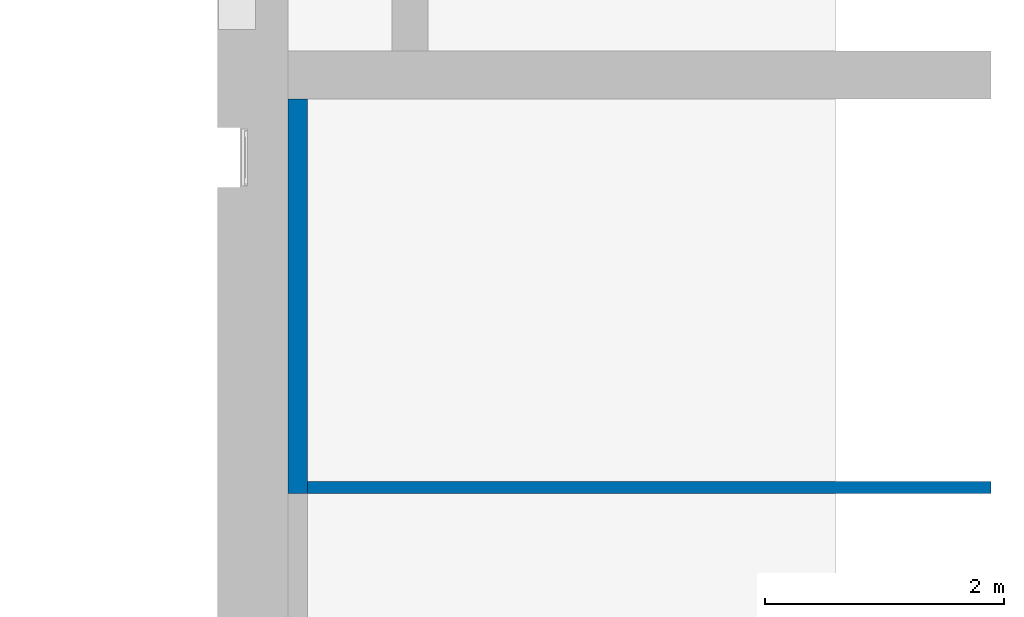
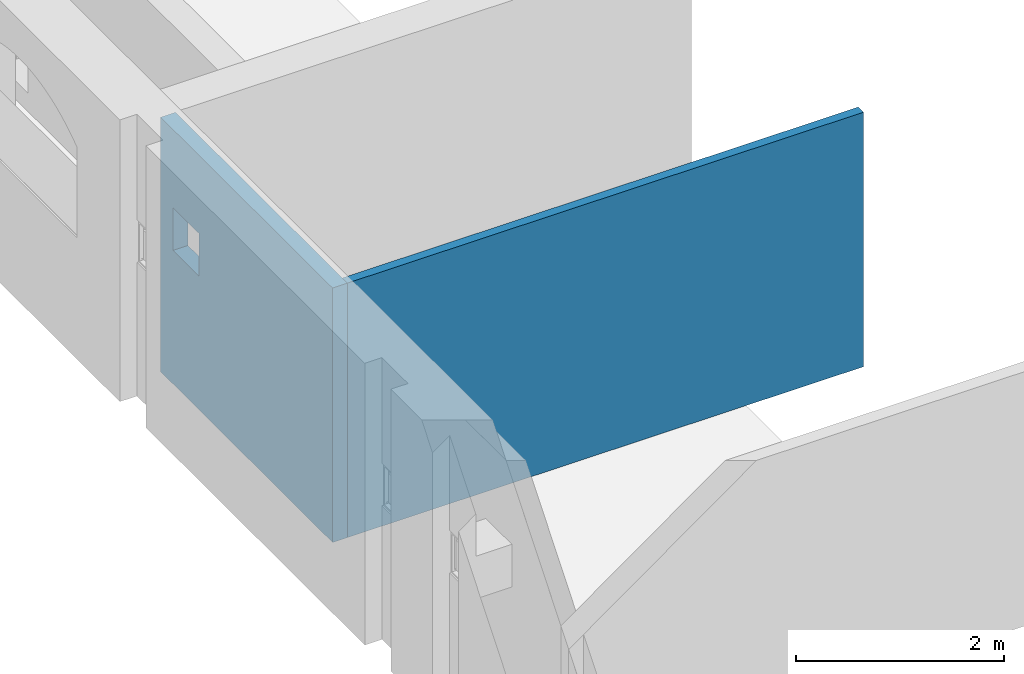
# One storey, part 5 of 11: 2 walls, 15 openings.
"""IFC2X3 building model written with IfcOpenShell, lengths in millimetres."""

from ifc_helpers import new_model, entity, si_unit, converted_unit, derived_unit, direction, frame, frame_2d, origin, origin_2d_with_axis, place, context, subcontext, project, spatial, polyline, circle_curve, parameter, trimmed, segment, composite_curve, rectangle, outline, extrude, clip, bounded_halfspace, material, layer, layer_set, layer_usage, type_object, element, save


model = new_model("IFC2X3")

# Units and contexts
model_context = context("Model", 3, precision=0.01, world=origin(), true_north=direction((6.123031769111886e-17, 1.0)))
body_context = subcontext(model_context, "Body", "Model", "MODEL_VIEW")
ifc_project = project(units=[si_unit("LENGTHUNIT", "METRE", prefix="MILLI"), si_unit("AREAUNIT", "SQUARE_METRE"), si_unit("VOLUMEUNIT", "CUBIC_METRE"), converted_unit("PLANEANGLEUNIT", "DEGREE", entity("IfcPlaneAngleMeasure", 0.017453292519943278), si_unit("PLANEANGLEUNIT", "RADIAN"), dimensions=[0, 0, 0, 0, 0, 0, 0]), si_unit("MASSUNIT", "GRAM", prefix="KILO"), derived_unit("MASSDENSITYUNIT", [(si_unit("MASSUNIT", "GRAM", prefix="KILO"), 1), (si_unit("LENGTHUNIT", "METRE"), -3)]), derived_unit("IONCONCENTRATIONUNIT", [(si_unit("MASSUNIT", "GRAM", prefix="KILO"), 1), (si_unit("LENGTHUNIT", "METRE"), -3)]), derived_unit("MOMENTOFINERTIAUNIT", [(si_unit("LENGTHUNIT", "METRE"), 4)]), si_unit("TIMEUNIT", "SECOND"), si_unit("FREQUENCYUNIT", "HERTZ"), si_unit("THERMODYNAMICTEMPERATUREUNIT", "DEGREE_CELSIUS"), derived_unit("THERMALTRANSMITTANCEUNIT", [(si_unit("MASSUNIT", "GRAM", prefix="KILO"), 1), (si_unit("THERMODYNAMICTEMPERATUREUNIT", "KELVIN"), -1), (si_unit("TIMEUNIT", "SECOND"), -3)]), derived_unit("THERMALCONDUCTANCEUNIT", [(si_unit("MASSUNIT", "GRAM", prefix="KILO"), 1), (si_unit("THERMODYNAMICTEMPERATUREUNIT", "KELVIN"), -1), (si_unit("TIMEUNIT", "SECOND"), -3), (si_unit("LENGTHUNIT", "METRE"), 1)]), derived_unit("VOLUMETRICFLOWRATEUNIT", [(si_unit("LENGTHUNIT", "METRE", prefix="DECI"), 3), (si_unit("TIMEUNIT", "SECOND"), -1)]), derived_unit("MASSFLOWRATEUNIT", [(si_unit("MASSUNIT", "GRAM", prefix="KILO"), 1), (si_unit("TIMEUNIT", "SECOND"), -1)]), derived_unit("ROTATIONALFREQUENCYUNIT", [(si_unit("TIMEUNIT", "SECOND"), -1)]), si_unit("ELECTRICCURRENTUNIT", "AMPERE"), si_unit("ELECTRICVOLTAGEUNIT", "VOLT"), si_unit("POWERUNIT", "WATT"), si_unit("FORCEUNIT", "NEWTON", prefix="KILO"), si_unit("ILLUMINANCEUNIT", "LUX"), si_unit("LUMINOUSFLUXUNIT", "LUMEN"), si_unit("LUMINOUSINTENSITYUNIT", "CANDELA"), si_unit("ENERGYUNIT", "JOULE"), derived_unit("USERDEFINED", [(si_unit("MASSUNIT", "GRAM", prefix="KILO"), -1), (si_unit("LENGTHUNIT", "METRE"), -2), (si_unit("TIMEUNIT", "SECOND"), 3), (si_unit("LUMINOUSFLUXUNIT", "LUMEN"), 1)]), derived_unit("USERDEFINED", [(si_unit("MASSUNIT", "GRAM", prefix="KILO"), 1), (si_unit("TIMEUNIT", "SECOND"), -3), (si_unit("LENGTHUNIT", "METRE"), 3), (si_unit("ELECTRICCURRENTUNIT", "AMPERE"), -2)]), derived_unit("SOUNDPOWERUNIT", [(si_unit("MASSUNIT", "GRAM", prefix="KILO"), 1), (si_unit("TIMEUNIT", "SECOND"), -3), (si_unit("LENGTHUNIT", "METRE"), 2)]), derived_unit("SOUNDPRESSUREUNIT", [(si_unit("MASSUNIT", "GRAM", prefix="KILO"), 1), (si_unit("LENGTHUNIT", "METRE"), -1), (si_unit("TIMEUNIT", "SECOND"), -2)]), derived_unit("LINEARVELOCITYUNIT", [(si_unit("LENGTHUNIT", "METRE"), 1), (si_unit("TIMEUNIT", "SECOND"), -1)]), si_unit("PRESSUREUNIT", "PASCAL"), derived_unit("USERDEFINED", [(si_unit("MASSUNIT", "GRAM", prefix="KILO"), 1), (si_unit("LENGTHUNIT", "METRE"), -2), (si_unit("TIMEUNIT", "SECOND"), -2)]), derived_unit("LINEARFORCEUNIT", [(si_unit("MASSUNIT", "GRAM", prefix="KILO"), 1), (si_unit("TIMEUNIT", "SECOND"), -2)]), derived_unit("PLANARFORCEUNIT", [(si_unit("MASSUNIT", "GRAM", prefix="KILO"), 1), (si_unit("LENGTHUNIT", "METRE"), -1), (si_unit("TIMEUNIT", "SECOND"), -2)]), derived_unit("SPECIFICHEATCAPACITYUNIT", [(si_unit("THERMODYNAMICTEMPERATUREUNIT", "KELVIN"), -1), (si_unit("LENGTHUNIT", "METRE"), 2), (si_unit("TIMEUNIT", "SECOND"), -2)]), derived_unit("HEATFLUXDENSITYUNIT", [(si_unit("MASSUNIT", "GRAM", prefix="KILO"), 1), (si_unit("TIMEUNIT", "SECOND"), -3)]), derived_unit("HEATINGVALUEUNIT", [(si_unit("LENGTHUNIT", "METRE"), 2), (si_unit("TIMEUNIT", "SECOND"), -2)]), derived_unit("VAPORPERMEABILITYUNIT", [(si_unit("LENGTHUNIT", "METRE"), -1), (si_unit("TIMEUNIT", "SECOND"), 1)]), derived_unit("DYNAMICVISCOSITYUNIT", [(si_unit("MASSUNIT", "GRAM", prefix="KILO"), 1), (si_unit("TIMEUNIT", "SECOND"), -1), (si_unit("LENGTHUNIT", "METRE"), -1)]), derived_unit("THERMALEXPANSIONCOEFFICIENTUNIT", [(si_unit("THERMODYNAMICTEMPERATUREUNIT", "KELVIN"), -1)]), derived_unit("MODULUSOFELASTICITYUNIT", [(si_unit("MASSUNIT", "GRAM", prefix="KILO"), 1), (si_unit("LENGTHUNIT", "METRE"), -1), (si_unit("TIMEUNIT", "SECOND"), -2)]), derived_unit("ISOTHERMALMOISTURECAPACITYUNIT", [(si_unit("MASSUNIT", "GRAM", prefix="KILO"), -1), (si_unit("LENGTHUNIT", "METRE"), 3)]), derived_unit("MOISTUREDIFFUSIVITYUNIT", [(si_unit("TIMEUNIT", "SECOND"), -1), (si_unit("LENGTHUNIT", "METRE"), 2)]), derived_unit("MASSPERLENGTHUNIT", [(si_unit("MASSUNIT", "GRAM", prefix="KILO"), 1), (si_unit("LENGTHUNIT", "METRE"), -1)]), derived_unit("THERMALRESISTANCEUNIT", [(si_unit("MASSUNIT", "GRAM", prefix="KILO"), -1), (si_unit("TIMEUNIT", "SECOND"), 3), (si_unit("THERMODYNAMICTEMPERATUREUNIT", "KELVIN"), 1)]), derived_unit("ACCELERATIONUNIT", [(si_unit("LENGTHUNIT", "METRE"), 1), (si_unit("TIMEUNIT", "SECOND"), -2)]), derived_unit("ANGULARVELOCITYUNIT", [(si_unit("TIMEUNIT", "SECOND"), -1), (si_unit("PLANEANGLEUNIT", "RADIAN"), 1)]), derived_unit("LINEARSTIFFNESSUNIT", [(si_unit("MASSUNIT", "GRAM", prefix="KILO"), 1), (si_unit("TIMEUNIT", "SECOND"), -2)]), derived_unit("WARPINGCONSTANTUNIT", [(si_unit("LENGTHUNIT", "METRE"), 6)]), derived_unit("LINEARMOMENTUNIT", [(si_unit("MASSUNIT", "GRAM", prefix="KILO"), 1), (si_unit("LENGTHUNIT", "METRE"), 1), (si_unit("TIMEUNIT", "SECOND"), -2)]), derived_unit("TORQUEUNIT", [(si_unit("MASSUNIT", "GRAM", prefix="KILO"), 1), (si_unit("LENGTHUNIT", "METRE"), 2), (si_unit("TIMEUNIT", "SECOND"), -2)])], contexts=[model_context])

# Site, building, storey
site_placement = place(None, origin())
site = spatial("IfcSite", under=ifc_project, at=site_placement, Name="Default", CompositionType="ELEMENT")
building_placement = place(site_placement, origin())
building = spatial("IfcBuilding", under=site, at=building_placement, Name="Eesti Rahvusraamatukogu hoone renoveerimise projekteerimistööd", CompositionType="ELEMENT")
storey_placement = place(building_placement, frame((0.0, 0.0, -1650.0)))
storey = spatial("IfcBuildingStorey", under=building, at=storey_placement, Name="-1. korrus", CompositionType="ELEMENT", Elevation=-1650.0000000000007)

# Wall
ifc_material_1 = material(Name="EST. Müüritis. Väikeplokk. Poorbetoonplokk")
ifc_layer_1 = layer(ifc_material_1, 100.0)
ifc_layer_set_1 = layer_set([ifc_layer_1], Name="Basic Wall:SS-70 - 100 poorbetoon")
ifc_layer_usage_1 = layer_usage(ifc_layer_set_1, "AXIS2", "NEGATIVE", 50.0)
wall_type_1 = type_object("IfcWallType", Name="Basic Wall:SS-70 - 100 poorbetoon", PredefinedType="STANDARD", material=ifc_layer_set_1)
wall_1_placement = place(storey_placement, frame((-30310.0, 20980.0, 0.0), z_axis=(0.0, 0.0, 1.0), x_axis=(-1.0, 0.0, 0.0)))
element("IfcWallStandardCase", 1, at=wall_1_placement, inside=storey, type_object=wall_type_1, material=ifc_layer_usage_1, Name="Basic Wall:SS-70 - 100 poorbetoon", ObjectType="Basic Wall:SS-70 - 100 poorbetoon", context=body_context, shape_type="Clipping", body=[
    clip(extrude(rectangle(XDim=5715.173422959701, YDim=100.00000000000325, at=frame_2d((2857.5867114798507, -8.455458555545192e-13), x_axis=(-1.0, 0.0))), origin(), (0.0, 0.0, 1.0), 2980.0000000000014), bounded_halfspace(frame((0.0, -50.0, 2980.0), z_axis=(0.0, 0.0, 1.0), x_axis=(0.0, 1.0, 0.0)), False, frame((0.0, -50.0, 2980.0)), polyline([(0.0, 0.0), (5715.173422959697, 0.0), (5715.173422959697, 100.0), (0.0, 100.0), (0.0, 0.0)]))),
])

# Wall, openings
ifc_material_2 = material(Name="EST. Ehitusplaat. Kipsplaat")
ifc_layer_2 = layer(ifc_material_2, 14.0)
ifc_material_3 = material(Name="EST. Ehitusplaat. OSB")
ifc_layer_3 = layer(ifc_material_3, 15.0)
ifc_material_4 = material(Name="EST. Õhkvahe. Roov. Kipsplaadi alusroov. Vertikaalne")
ifc_layer_4 = layer(ifc_material_4, 66.0)
ifc_material_5 = material(Name="EST. Soojustus.PIR. Default")
ifc_layer_5 = layer(ifc_material_5, 70.0)
ifc_layer_set_2 = layer_set([ifc_layer_2, ifc_layer_3, ifc_layer_4, ifc_layer_5], Name="Basic Wall:VS-01 - 165 sooj. mitte läbiv")
ifc_layer_usage_2 = layer_usage(ifc_layer_set_2, "AXIS2", "NEGATIVE", 82.49999999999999)
wall_type_2 = type_object("IfcWallType", Name="Basic Wall:VS-01 - 165 sooj. mitte läbiv", PredefinedType="STANDARD", material=ifc_layer_set_2)
wall_2_placement = place(storey_placement, frame((-36107.67342295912, 24230.0, 0.0), z_axis=(0.0, 0.0, 1.0), x_axis=(0.0, -1.0, 0.0)))
wall_2 = element("IfcWallStandardCase", 2, at=wall_2_placement, inside=storey, type_object=wall_type_2, material=ifc_layer_usage_2, Name="Basic Wall:VS-01 - 165 sooj. mitte läbiv", ObjectType="Basic Wall:VS-01 - 165 sooj. mitte läbiv", context=body_context, shape_type="SweptSolid", body=[
    extrude(rectangle(XDim=3299.999999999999, YDim=165.00000000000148, at=frame_2d((1649.9999999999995, -1.3784529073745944e-12), x_axis=(-1.0, 0.0))), origin(), (0.0, 0.0, 1.0), 2980.0000000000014),
])
opening_1_placement = place(wall_2_placement, frame((-578.4047277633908, -234.90000000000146, 1420.0)))
element("IfcOpeningElement", 3, at=opening_1_placement, cuts=wall_2, Name="Basic Wall:VS-01 - 165 sooj. mitte läbiv", ObjectType="Opening", context=body_context, shape_type="SweptSolid", body=[
    extrude(outline(composite_curve([segment(polyline([(-530.3896667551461, -1100.0), (529.6103332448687, -1100.0)]), True, "CONTINUOUS"), segment(trimmed(circle_curve(frame_2d((-913.267637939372, 1.0228095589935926), x_axis=(0.0, -1.0)), 1814.9788061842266), [parameter(52.653685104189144)], [parameter(127.26512850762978)], True, "PARAMETER"), True, "CONTINUOUS"), segment(polyline([(531.1690002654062, 1100.0), (-530.3896667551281, 1100.0)]), True, "CONTINUOUS"), segment(polyline([(-530.3896667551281, 1100.0), (-530.3896667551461, -1100.0)]), True, "CONTINUOUS")], self_intersect=False)), frame((-1101.5952722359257, 0.0, 530.3896667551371), z_axis=(0.0, 1.0, 0.0), x_axis=(0.0, 0.0, 1.0)), (0.0, 0.0, 1.0), 469.8000000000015),
])
opening_2_placement = place(wall_2_placement, frame((-3567.039068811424, -234.90000000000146, 1420.0)))
element("IfcOpeningElement", 4, at=opening_2_placement, cuts=wall_2, Name="Basic Wall:VS-01 - 165 sooj. mitte läbiv", ObjectType="Opening", context=body_context, shape_type="SweptSolid", body=[
    extrude(outline(composite_curve([segment(polyline([(-530.3896667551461, -1100.0), (529.6103332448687, -1100.0)]), True, "CONTINUOUS"), segment(trimmed(circle_curve(frame_2d((-913.267637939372, 1.0228095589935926), x_axis=(0.0, -1.0)), 1814.9788061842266), [parameter(52.653685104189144)], [parameter(127.26512850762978)], True, "PARAMETER"), True, "CONTINUOUS"), segment(polyline([(531.1690002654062, 1100.0), (-530.3896667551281, 1100.0)]), True, "CONTINUOUS"), segment(polyline([(-530.3896667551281, 1100.0), (-530.3896667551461, -1100.0)]), True, "CONTINUOUS")], self_intersect=False)), frame((-1101.5952722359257, 0.0, 530.3896667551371), z_axis=(0.0, 1.0, 0.0), x_axis=(0.0, 0.0, 1.0)), (0.0, 0.0, 1.0), 469.8000000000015),
])
opening_3_placement = place(wall_2_placement, frame((24230.0, 36107.67342295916, 1565.0)))
element("IfcOpeningElement", 5, at=opening_3_placement, cuts=wall_2, Name="Basic Wall:VS-01 - 165 sooj. mitte läbiv", ObjectType="Opening", context=body_context, shape_type="SweptSolid", body=[
    extrude(rectangle(XDim=499.9999999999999, YDim=499.999999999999, at=frame_2d((-4.334310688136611e-12, 0.0), x_axis=(0.0, 1.0))), frame((-47740.0, -37714.173422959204, 250.0), z_axis=(0.0, 1.0, 0.0), x_axis=(-1.0, 0.0, 0.0)), (0.0, 0.0, 1.0), 3048.0),
])
opening_4_placement = place(wall_2_placement, frame((24230.0, 36107.67342295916, 1565.0)))
element("IfcOpeningElement", 6, at=opening_4_placement, cuts=wall_2, Name="Basic Wall:VS-01 - 165 sooj. mitte läbiv", ObjectType="Opening", context=body_context, shape_type="SweptSolid", body=[
    extrude(rectangle(XDim=499.9999999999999, YDim=499.999999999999, at=frame_2d((0.0, -4.334310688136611e-12), x_axis=(1.0, 0.0))), frame((-43040.0, -37714.17342295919, 250.0), z_axis=(0.0, 1.0, 0.0), x_axis=(0.0, 0.0, 1.0)), (0.0, 0.0, 1.0), 3048.0),
])
opening_5_placement = place(wall_2_placement, frame((24230.0, 36107.67342295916, 1565.0)))
element("IfcOpeningElement", 7, at=opening_5_placement, cuts=wall_2, Name="Basic Wall:VS-01 - 165 sooj. mitte läbiv", ObjectType="Opening", context=body_context, shape_type="SweptSolid", body=[
    extrude(rectangle(XDim=499.9999999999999, YDim=499.999999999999, at=frame_2d((-4.334310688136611e-12, 0.0), x_axis=(0.0, 1.0))), frame((-41740.0, -37714.17342295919, 250.0), z_axis=(0.0, 1.0, 0.0), x_axis=(-1.0, 0.0, 0.0)), (0.0, 0.0, 1.0), 3048.0),
])
opening_6_placement = place(wall_2_placement, frame((24230.0, 36107.67342295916, 1565.0)))
element("IfcOpeningElement", 8, at=opening_6_placement, cuts=wall_2, Name="Basic Wall:VS-01 - 165 sooj. mitte läbiv", ObjectType="Opening", context=body_context, shape_type="SweptSolid", body=[
    extrude(rectangle(XDim=499.9999999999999, YDim=499.999999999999, at=origin_2d_with_axis()), frame((-37040.0, -37714.17342295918, 250.0), z_axis=(0.0, 1.0, 0.0), x_axis=(0.0, 0.0, 1.0)), (0.0, 0.0, 1.0), 3048.0),
])
opening_7_placement = place(wall_2_placement, frame((24230.0, 36107.67342295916, 1565.0)))
element("IfcOpeningElement", 9, at=opening_7_placement, cuts=wall_2, Name="Basic Wall:VS-01 - 165 sooj. mitte läbiv", ObjectType="Opening", context=body_context, shape_type="SweptSolid", body=[
    extrude(rectangle(XDim=499.9999999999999, YDim=499.999999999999, at=frame_2d((0.0, 0.0), x_axis=(0.0, 1.0))), frame((-35740.0, -37714.17342295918, 250.0), z_axis=(0.0, 1.0, 0.0), x_axis=(-1.0, 0.0, 0.0)), (0.0, 0.0, 1.0), 3048.0),
])
opening_8_placement = place(wall_2_placement, frame((24230.0, 36107.67342295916, 1565.0)))
element("IfcOpeningElement", 10, at=opening_8_placement, cuts=wall_2, Name="Basic Wall:VS-01 - 165 sooj. mitte läbiv", ObjectType="Opening", context=body_context, shape_type="SweptSolid", body=[
    extrude(rectangle(XDim=499.9999999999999, YDim=499.999999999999, at=origin_2d_with_axis()), frame((-31040.0, -37714.17342295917, 250.0), z_axis=(0.0, 1.0, 0.0), x_axis=(0.0, 0.0, 1.0)), (0.0, 0.0, 1.0), 3048.0),
])
opening_9_placement = place(wall_2_placement, frame((24230.0, 36107.67342295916, 1565.0)))
element("IfcOpeningElement", 11, at=opening_9_placement, cuts=wall_2, Name="Basic Wall:VS-01 - 165 sooj. mitte läbiv", ObjectType="Opening", context=body_context, shape_type="SweptSolid", body=[
    extrude(rectangle(XDim=499.9999999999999, YDim=499.999999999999, at=origin_2d_with_axis()), frame((-19040.0, -37714.17342295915, 250.0), z_axis=(0.0, 1.0, 0.0), x_axis=(0.0, 0.0, 1.0)), (0.0, 0.0, 1.0), 3048.0),
])
opening_10_placement = place(wall_2_placement, frame((24230.0, 36107.67342295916, 1565.0)))
element("IfcOpeningElement", 12, at=opening_10_placement, cuts=wall_2, Name="Basic Wall:VS-01 - 165 sooj. mitte läbiv", ObjectType="Opening", context=body_context, shape_type="SweptSolid", body=[
    extrude(rectangle(XDim=499.9999999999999, YDim=500.00000000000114, at=frame_2d((-1.0800249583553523e-12, 0.0), x_axis=(0.0, 1.0))), frame((-17740.0, -37714.173422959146, 250.0), z_axis=(0.0, 1.0, 0.0), x_axis=(-1.0, 0.0, 0.0)), (0.0, 0.0, 1.0), 3048.0),
])
opening_11_placement = place(wall_2_placement, frame((24230.0, 36107.67342295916, 1565.0)))
element("IfcOpeningElement", 13, at=opening_11_placement, cuts=wall_2, Name="Basic Wall:VS-01 - 165 sooj. mitte läbiv", ObjectType="Opening", context=body_context, shape_type="SweptSolid", body=[
    extrude(rectangle(XDim=499.9999999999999, YDim=499.999999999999, at=origin_2d_with_axis()), frame((-13040.0, -37714.17342295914, 250.0), z_axis=(0.0, 1.0, 0.0), x_axis=(0.0, 0.0, 1.0)), (0.0, 0.0, 1.0), 3048.0),
])
opening_12_placement = place(wall_2_placement, frame((24230.0, 36107.67342295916, 1565.0)))
element("IfcOpeningElement", 14, at=opening_12_placement, cuts=wall_2, Name="Basic Wall:VS-01 - 165 sooj. mitte läbiv", ObjectType="Opening", context=body_context, shape_type="SweptSolid", body=[
    extrude(rectangle(XDim=499.9999999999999, YDim=500.00000000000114, at=frame_2d((1.0800249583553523e-12, 0.0), x_axis=(0.0, 1.0))), frame((-11740.0, -37714.17342295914, 250.0), z_axis=(0.0, 1.0, 0.0), x_axis=(-1.0, 0.0, 0.0)), (0.0, 0.0, 1.0), 3048.0),
])
opening_13_placement = place(wall_2_placement, frame((24230.0, 36107.67342295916, 1565.0)))
element("IfcOpeningElement", 15, at=opening_13_placement, cuts=wall_2, Name="Basic Wall:VS-01 - 165 sooj. mitte läbiv", ObjectType="Opening", context=body_context, shape_type="SweptSolid", body=[
    extrude(rectangle(XDim=499.9999999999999, YDim=500.00000000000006, at=frame_2d((0.0, 5.400124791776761e-13), x_axis=(1.0, 0.0))), frame((-7040.0, -37714.17342295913, 250.0), z_axis=(0.0, 1.0, 0.0), x_axis=(0.0, 0.0, 1.0)), (0.0, 0.0, 1.0), 3048.0),
])
opening_14_placement = place(wall_2_placement, frame((24230.0, 36107.67342295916, 1565.0)))
element("IfcOpeningElement", 16, at=opening_14_placement, cuts=wall_2, Name="Basic Wall:VS-01 - 165 sooj. mitte läbiv", ObjectType="Opening", context=body_context, shape_type="SweptSolid", body=[
    extrude(rectangle(XDim=499.9999999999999, YDim=499.999999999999, at=frame_2d((1.4210854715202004e-14, 0.0), x_axis=(1.0, 0.0))), frame((-23740.0, -37714.17342295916, 250.0), z_axis=(0.0, 1.0, 0.0), x_axis=(0.0, 0.0, 1.0)), (0.0, 0.0, 1.0), 3048.0),
])
opening_15_placement = place(wall_2_placement, frame((24230.0, 36107.67342295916, 1650.0)))
element("IfcOpeningElement", 17, at=opening_15_placement, cuts=wall_2, Name="Basic Wall:VS-01 - 165 sooj. mitte läbiv", ObjectType="Opening", context=body_context, shape_type="SweptSolid", body=[
    extrude(rectangle(XDim=3600.000000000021, YDim=499.999999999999, at=origin_2d_with_axis()), frame((-7040.0, -36790.0, 150.0), z_axis=(0.0, 1.0, 0.0), x_axis=(0.0, 0.0, -1.0)), (0.0, 0.0, 1.0), 199.99999999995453),
    extrude(rectangle(XDim=3600.000000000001, YDim=499.999999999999, at=frame_2d((0.0, -4.334310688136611e-12), x_axis=(1.0, 0.0))), frame((-47740.0, -36790.0, 150.0), z_axis=(0.0, 1.0, 0.0), x_axis=(0.0, 0.0, -1.0)), (0.0, 0.0, 1.0), 199.99999999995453),
    extrude(rectangle(XDim=3599.9999999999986, YDim=499.999999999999, at=frame_2d((0.0, -4.334310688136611e-12), x_axis=(1.0, 0.0))), frame((-43040.0, -36790.0, 150.0), z_axis=(0.0, 1.0, 0.0), x_axis=(0.0, 0.0, -1.0)), (0.0, 0.0, 1.0), 199.99999999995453),
    extrude(rectangle(XDim=3600.0000000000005, YDim=499.999999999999, at=frame_2d((2.2737367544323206e-13, -4.334310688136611e-12), x_axis=(1.0, 0.0))), frame((-41740.0, -36790.0, 150.0), z_axis=(0.0, 1.0, 0.0), x_axis=(0.0, 0.0, -1.0)), (0.0, 0.0, 1.0), 199.99999999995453),
    extrude(rectangle(XDim=3599.999999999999, YDim=499.999999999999, at=origin_2d_with_axis()), frame((-37040.0, -36790.0, 150.0), z_axis=(0.0, 1.0, 0.0), x_axis=(0.0, 0.0, -1.0)), (0.0, 0.0, 1.0), 199.99999999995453),
    extrude(rectangle(XDim=3599.999999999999, YDim=499.999999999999, at=origin_2d_with_axis()), frame((-35740.0, -36790.0, 150.0), z_axis=(0.0, 1.0, 0.0), x_axis=(0.0, 0.0, -1.0)), (0.0, 0.0, 1.0), 199.99999999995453),
    extrude(rectangle(XDim=3599.9999999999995, YDim=499.999999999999, at=frame_2d((-2.2737367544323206e-13, 0.0), x_axis=(1.0, 0.0))), frame((-31040.0, -36790.0, 150.0), z_axis=(0.0, 1.0, 0.0), x_axis=(0.0, 0.0, -1.0)), (0.0, 0.0, 1.0), 199.99999999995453),
    extrude(rectangle(XDim=3600.000000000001, YDim=499.999999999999, at=origin_2d_with_axis()), frame((-23740.0, -36790.0, 150.0), z_axis=(0.0, 1.0, 0.0), x_axis=(0.0, 0.0, -1.0)), (0.0, 0.0, 1.0), 199.99999999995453),
    extrude(rectangle(XDim=3600.0000000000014, YDim=500.0000000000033, at=frame_2d((-2.2737367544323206e-13, 2.1600499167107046e-12), x_axis=(1.0, 0.0))), frame((-19040.0, -36790.0, 150.0), z_axis=(0.0, 1.0, 0.0), x_axis=(0.0, 0.0, -1.0)), (0.0, 0.0, 1.0), 199.99999999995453),
    extrude(rectangle(XDim=3600.000000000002, YDim=499.999999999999, at=origin_2d_with_axis()), frame((-17740.0, -36790.0, 150.0), z_axis=(0.0, 1.0, 0.0), x_axis=(0.0, 0.0, -1.0)), (0.0, 0.0, 1.0), 199.99999999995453),
    extrude(rectangle(XDim=3600.0000000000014, YDim=500.0000000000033, at=origin_2d_with_axis()), frame((-13040.0, -36790.0, 150.0), z_axis=(0.0, 1.0, 0.0), x_axis=(0.0, 0.0, -1.0)), (0.0, 0.0, 1.0), 199.99999999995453),
    extrude(rectangle(XDim=3600.0000000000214, YDim=499.999999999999, at=origin_2d_with_axis()), frame((-11740.0, -36790.0, 150.0), z_axis=(0.0, 1.0, 0.0), x_axis=(0.0, 0.0, -1.0)), (0.0, 0.0, 1.0), 199.99999999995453),
])

save(model, "model.ifc")
